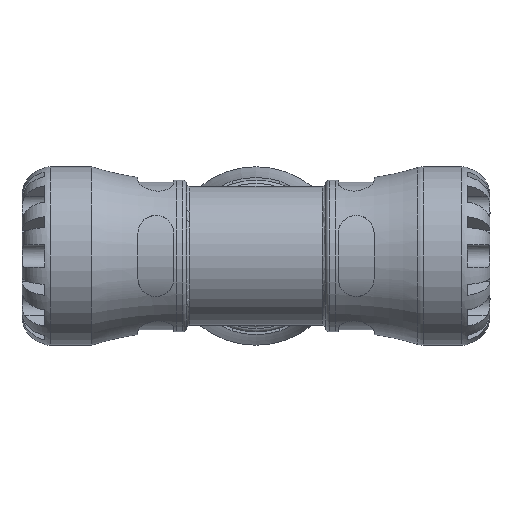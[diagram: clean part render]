
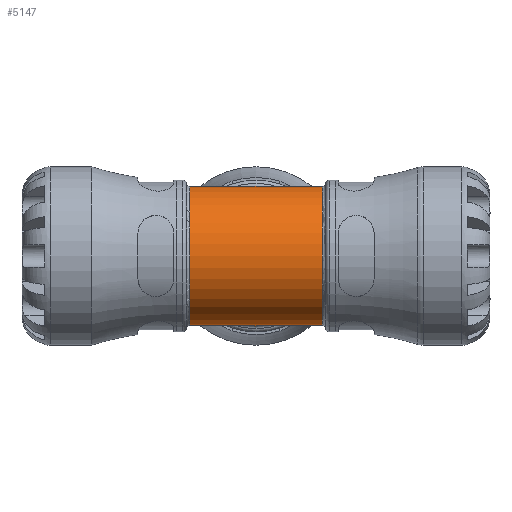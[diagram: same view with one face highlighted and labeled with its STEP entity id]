
A CAD part, front view. The second image highlights one B-rep face of the part: STEP entity #5147.
In plain terms, the highlighted cylindrical face has radius 22.586 mm (diameter 45.171 mm), a partial arc.
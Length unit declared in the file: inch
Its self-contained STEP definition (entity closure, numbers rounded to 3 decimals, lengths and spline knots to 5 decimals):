
#217=ELLIPSE('',#5315,1.25752,0.8892);
#218=ELLIPSE('',#5316,1.25752,0.8892);
#219=ELLIPSE('',#5317,1.25752,0.8892);
#220=ELLIPSE('',#5318,1.25752,0.8892);
#357=CIRCLE('',#5504,0.8892);
#358=CIRCLE('',#5505,0.8892);
#362=CIRCLE('',#5510,0.8892);
#363=CIRCLE('',#5511,0.8892);
#902=FACE_OUTER_BOUND('',#1198,.T.);
#1198=EDGE_LOOP('',(#4196,#4197,#4198,#4199,#4200,#4201,#4202,#4203));
#2074=VERTEX_POINT('',#7523);
#2075=VERTEX_POINT('',#7534);
#2076=VERTEX_POINT('',#7536);
#2077=VERTEX_POINT('',#7538);
#2078=VERTEX_POINT('',#7561);
#2079=VERTEX_POINT('',#7563);
#2234=VERTEX_POINT('',#9019);
#2237=VERTEX_POINT('',#9028);
#2581=EDGE_CURVE('',#2075,#2074,#217,.T.);
#2582=EDGE_CURVE('',#2076,#2075,#218,.T.);
#2584=EDGE_CURVE('',#2078,#2077,#219,.T.);
#2585=EDGE_CURVE('',#2079,#2078,#220,.T.);
#2829=EDGE_CURVE('',#2234,#2077,#357,.T.);
#2830=EDGE_CURVE('',#2076,#2234,#358,.T.);
#2834=EDGE_CURVE('',#2237,#2074,#362,.T.);
#2835=EDGE_CURVE('',#2079,#2237,#363,.T.);
#4196=ORIENTED_EDGE('',*,*,#2584,.T.);
#4197=ORIENTED_EDGE('',*,*,#2829,.F.);
#4198=ORIENTED_EDGE('',*,*,#2830,.F.);
#4199=ORIENTED_EDGE('',*,*,#2582,.T.);
#4200=ORIENTED_EDGE('',*,*,#2581,.T.);
#4201=ORIENTED_EDGE('',*,*,#2834,.F.);
#4202=ORIENTED_EDGE('',*,*,#2835,.F.);
#4203=ORIENTED_EDGE('',*,*,#2585,.T.);
#4933=CYLINDRICAL_SURFACE('',#5638,0.8892);
#5147=ADVANCED_FACE('',(#902),#4933,.T.);
#5315=AXIS2_PLACEMENT_3D('',#7535,#5954,#5955);
#5316=AXIS2_PLACEMENT_3D('',#7537,#5956,#5957);
#5317=AXIS2_PLACEMENT_3D('',#7562,#5958,#5959);
#5318=AXIS2_PLACEMENT_3D('',#7564,#5960,#5961);
#5504=AXIS2_PLACEMENT_3D('',#9021,#6417,#6418);
#5505=AXIS2_PLACEMENT_3D('',#9022,#6419,#6420);
#5510=AXIS2_PLACEMENT_3D('',#9030,#6429,#6430);
#5511=AXIS2_PLACEMENT_3D('',#9031,#6431,#6432);
#5638=AXIS2_PLACEMENT_3D('',#10020,#6749,#6750);
#5954=DIRECTION('center_axis',(0.707,-0.707,0.));
#5955=DIRECTION('ref_axis',(-0.707,-0.707,0.));
#5956=DIRECTION('center_axis',(-0.707,-0.707,0.));
#5957=DIRECTION('ref_axis',(-0.707,0.707,0.));
#5958=DIRECTION('center_axis',(-0.707,-0.707,0.));
#5959=DIRECTION('ref_axis',(-0.707,0.707,0.));
#5960=DIRECTION('center_axis',(0.707,-0.707,0.));
#5961=DIRECTION('ref_axis',(-0.707,-0.707,0.));
#6417=DIRECTION('center_axis',(-1.,0.,0.));
#6418=DIRECTION('ref_axis',(0.,1.,0.));
#6419=DIRECTION('center_axis',(-1.,0.,0.));
#6420=DIRECTION('ref_axis',(0.,1.,0.));
#6429=DIRECTION('center_axis',(1.,0.,0.));
#6430=DIRECTION('ref_axis',(0.,1.,0.));
#6431=DIRECTION('center_axis',(1.,0.,0.));
#6432=DIRECTION('ref_axis',(0.,1.,0.));
#6749=DIRECTION('center_axis',(1.,0.,0.));
#6750=DIRECTION('ref_axis',(0.,-1.,0.));
#7523=CARTESIAN_POINT('',(0.84432,0.84432,-0.27894));
#7534=CARTESIAN_POINT('',(0.,0.,-0.8892));
#7535=CARTESIAN_POINT('Origin',(0.,0.,
0.));
#7536=CARTESIAN_POINT('',(-0.84432,0.84432,-0.27894));
#7537=CARTESIAN_POINT('Origin',(0.,0.,
0.));
#7538=CARTESIAN_POINT('',(-0.84432,0.84432,0.27894));
#7561=CARTESIAN_POINT('',(0.,0.,0.8892));
#7562=CARTESIAN_POINT('Origin',(0.,0.,
0.));
#7563=CARTESIAN_POINT('',(0.84432,0.84432,0.27894));
#7564=CARTESIAN_POINT('Origin',(0.,0.,
0.));
#9019=CARTESIAN_POINT('',(-0.84432,-0.8892,0.));
#9021=CARTESIAN_POINT('Origin',(-0.84432,0.,0.));
#9022=CARTESIAN_POINT('Origin',(-0.84432,0.,0.));
#9028=CARTESIAN_POINT('',(0.84432,-0.8892,0.));
#9030=CARTESIAN_POINT('Origin',(0.84432,0.,0.));
#9031=CARTESIAN_POINT('Origin',(0.84432,0.,0.));
#10020=CARTESIAN_POINT('Origin',(0.4446,0.,0.));
